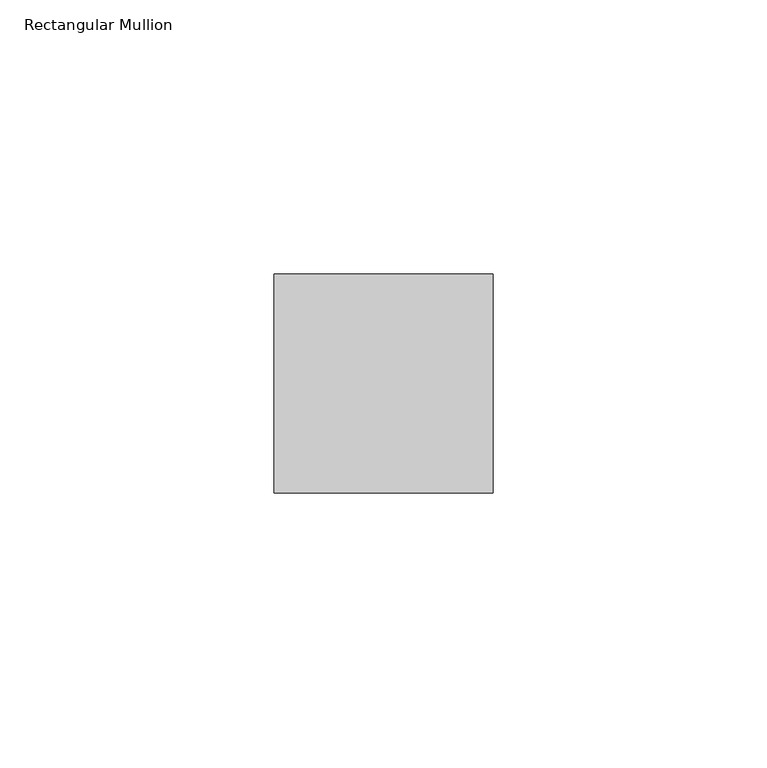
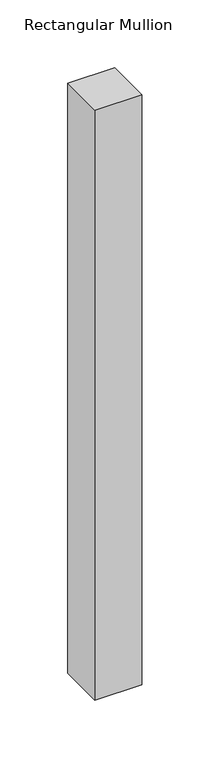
"""IFC4 building model written with IfcOpenShell, lengths in millimetres: member geometry, Rectangular Mullion : Danpal_NM_MiddleH-Mullion."""

from ifc_helpers import new_model, si_unit, frame, origin, place, context, project, spatial, polyline, outline, extrude, source, transform, mapped, element, save


def rectangular_mullion_41eb730e(model_context):
    return source(origin(), model_context, "Body", "SweptSolid", [
        extrude(outline(polyline([(0.0, -108.6621721), (-40.0, -108.6621721), (-40.0, -68.6621721), (0.0, -68.6621721), (0.0, -108.6621721)])), frame((0.0, 0.0, -531.2), z_axis=(0.0, 0.0, 1.0), x_axis=(1.0, 0.0, 0.0)), (0.0, 0.0, 1.0), 531.2),
    ])


if __name__ == "__main__":
    model = new_model("IFC4")
    model_context = context("Model", 3, world=origin())
    ifc_project = project(units=[si_unit("LENGTHUNIT", "METRE", prefix="MILLI")], contexts=[model_context])
    site = spatial("IfcSite", under=ifc_project)
    building = spatial("IfcBuilding", under=site)
    placement = place(None, origin())
    rectangular_mullion_shape = rectangular_mullion_41eb730e(model_context)
    element("IfcMember", 1, ObjectType="Rectangular Mullion : Danpal_NM_MiddleH-Mullion", at=placement, inside=building, context=model_context, shape_type="MappedRepresentation", body=[
        mapped(rectangular_mullion_shape, transform((0.0, 0.0, 0.0), x_axis=(1.0, 0.0, 0.0), y_axis=(0.0, 1.0, 0.0), z_axis=(0.0, 0.0, 1.0))),
    ])
    save(model, "model.ifc")
